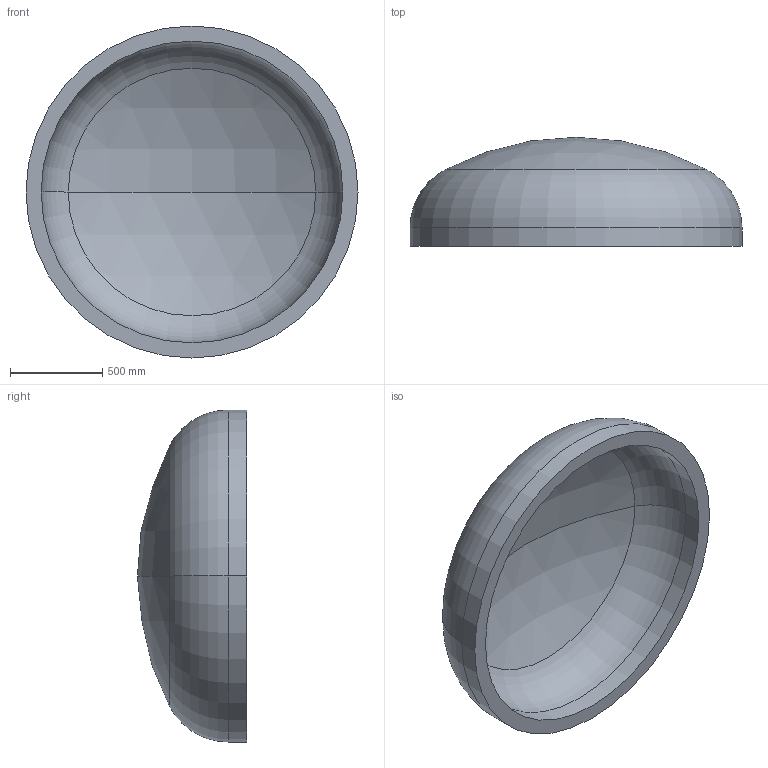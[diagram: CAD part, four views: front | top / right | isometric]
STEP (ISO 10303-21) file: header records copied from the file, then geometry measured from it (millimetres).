
FILE_DESCRIPTION (( 'STEP AP203' ), '1' );
FILE_NAME ('DIN 28013 Korbbogenform_-_Boden DIN 28013 - 1800 x 100 - I - s=82.step', '2016-07-01T12:41:09', ( '' ), ( '' ), 'SwSTEP 2.0', 'SolidWorks 2013', '' );
FILE_SCHEMA (( 'CONFIG_CONTROL_DESIGN' ));
Length unit declared in the file: millimetre
Products named in the file (1): DIN 28013 Korbbogenform_-_Boden DIN 28013 - 1800 x 100 - I - s=82
Bounding box: 1800 x 591.28 x 1800 mm (x, y, z)
Volume: 316323008.4 mm3; surface area: 8171850.9 mm2
Topology: 1 solids, 1 shells, 13 faces, 24 edges, 14 vertices
Faces by surface type: torus 4, cylinder 4, sphere 4, plane 1
Entity records: 407 total; most frequent: DIRECTION 72, CARTESIAN_POINT 52, ORIENTED_EDGE 48, AXIS2_PLACEMENT_3D 34, EDGE_CURVE 24, CIRCLE 20, VERTEX_POINT 14, EDGE_LOOP 14
